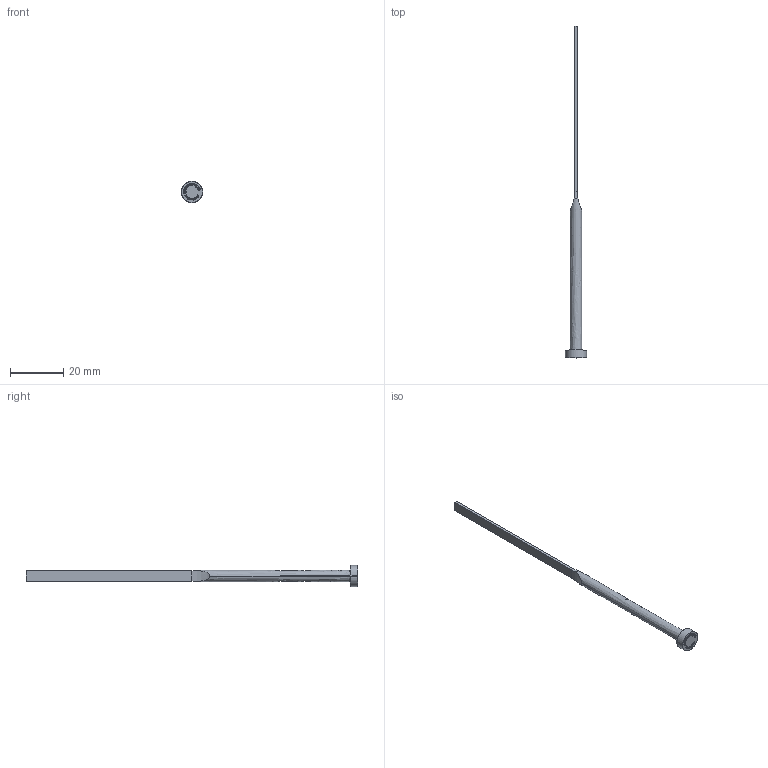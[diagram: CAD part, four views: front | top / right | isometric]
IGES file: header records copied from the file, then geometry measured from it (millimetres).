
Start section: SolidWorks IGES file using analytic representation for surfaces
Global section: file name: D:\Cleonir_particular\Matripeças\Lâmina Extratoras\LE1,003,8125.IGS; native system: SolidWorks 2013; preprocessor: SolidWorks 2013; author: Cleonir; date: 130305.130906; units: millimetre
Bounding box: 8 x 125 x 8 mm (x, y, z)
Surface area: 1559.6 mm2 (no closed solid volume)
Topology: 0 solids, 0 shells, 326 faces, 3139 edges, 3139 vertices
Faces by surface type: bspline 307, revolution 19
